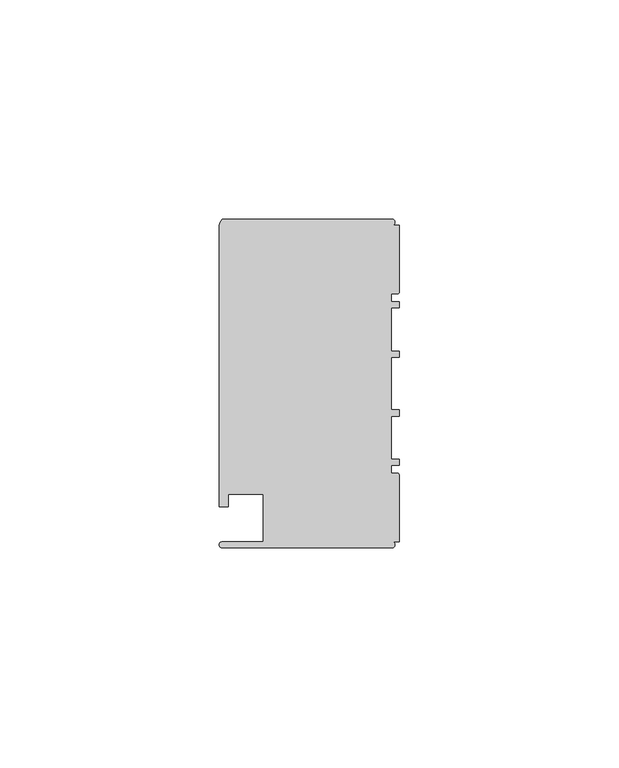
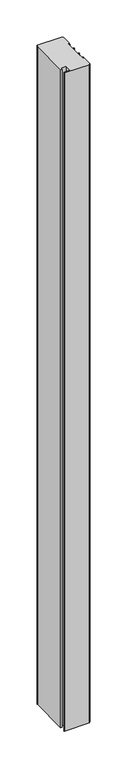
"""IFC4 building model written with IfcOpenShell, lengths in millimetres: member geometry, Прямоугольный импост : 1-AMG-1-Профиль 40Х75 Низ Л."""

from ifc_helpers import new_model, si_unit, point, frame, frame_2d, origin, place, context, project, spatial, polyline, circle_curve, trimmed, segment, composite_curve, outline, extrude, source, transform, mapped, element, save


def member_beae20de(model_context):
    return source(origin(), model_context, "Body", "SweptSolid", [
        extrude(outline(composite_curve([segment(polyline([(-1.7, -37.5), (-40.4, -37.5)]), True, "CONTINUOUS"), segment(trimmed(circle_curve(frame_2d((-40.4, -36.8)), 0.7), [point((-40.4, -37.5))], [point((-40.4, -36.1))], False, "CARTESIAN"), True, "CONTINUOUS"), segment(polyline([(-40.4, -36.1), (-31.0, -36.1), (-31.0, -25.25), (-39.0, -25.25), (-39.0, -28.1), (-41.1, -28.1), (-41.1, 35.6)]), True, "CONTINUOUS"), segment(trimmed(circle_curve(frame_2d((-38.1714286, 35.6)), 2.9285714), [point((-41.1, 35.6))], [point((-40.4, 37.5))], False, "CARTESIAN"), True, "CONTINUOUS"), segment(polyline([(-40.4, 37.5), (-1.7, 37.5)]), True, "CONTINUOUS"), segment(trimmed(circle_curve(frame_2d((-1.7, 36.8)), 0.7), [point((-1.7, 37.5))], [point((-1.7, 36.1))], False, "CARTESIAN"), True, "CONTINUOUS"), segment(polyline([(-1.7, 36.1), (0.0, 36.1), (0.0, 20.95)]), True, "CONTINUOUS"), segment(trimmed(circle_curve(frame_2d((-0.5, 20.95)), 0.5), [point((0.0, 20.95))], [point((-0.5, 20.45))], False, "CARTESIAN"), True, "CONTINUOUS"), segment(polyline([(-0.5, 20.45), (-1.8, 20.45), (-1.8, 18.65), (0.0, 18.65), (0.0, 17.25), (-1.8, 17.25), (-1.8, 7.4), (0.0, 7.4), (0.0, 6.0), (-1.8, 6.0), (-1.8, -6.0), (0.0, -6.0), (0.0, -7.4), (-1.8, -7.4), (-1.8, -17.25), (0.0, -17.25), (0.0, -18.65), (-1.8, -18.65), (-1.8, -20.45), (-0.5, -20.45)]), True, "CONTINUOUS"), segment(trimmed(circle_curve(frame_2d((-0.5, -20.95)), 0.5), [point((-0.5, -20.45))], [point((0.0, -20.95))], False, "CARTESIAN"), True, "CONTINUOUS"), segment(polyline([(0.0, -20.95), (0.0, -36.1), (-1.7, -36.1)]), True, "CONTINUOUS"), segment(trimmed(circle_curve(frame_2d((-1.7, -36.8)), 0.7), [point((-1.7, -36.1))], [point((-1.7, -37.5))], False, "CARTESIAN"), True, "CONTINUOUS")], self_intersect=False)), frame((0.0, 0.0, -1091.1046876), z_axis=(0.0, 0.0, 1.0), x_axis=(1.0, 0.0, 0.0)), (0.0, 0.0, 1.0), 1091.1046876),
    ])


if __name__ == "__main__":
    model = new_model("IFC4")
    model_context = context("Model", 3, world=origin())
    ifc_project = project(units=[si_unit("LENGTHUNIT", "METRE", prefix="MILLI")], contexts=[model_context])
    site = spatial("IfcSite", under=ifc_project)
    building = spatial("IfcBuilding", under=site)
    placement = place(None, origin())
    member_shape = member_beae20de(model_context)
    element("IfcMember", 1, ObjectType="Прямоугольный импост : 1-AMG-1-Профиль 40Х75 Низ Л", at=placement, inside=building, context=model_context, shape_type="MappedRepresentation", body=[
        mapped(member_shape, transform((0.0, 0.0, 0.0), x_axis=(1.0, 0.0, 0.0), y_axis=(0.0, 1.0, 0.0), z_axis=(0.0, 0.0, 1.0))),
    ])
    save(model, "model.ifc")
